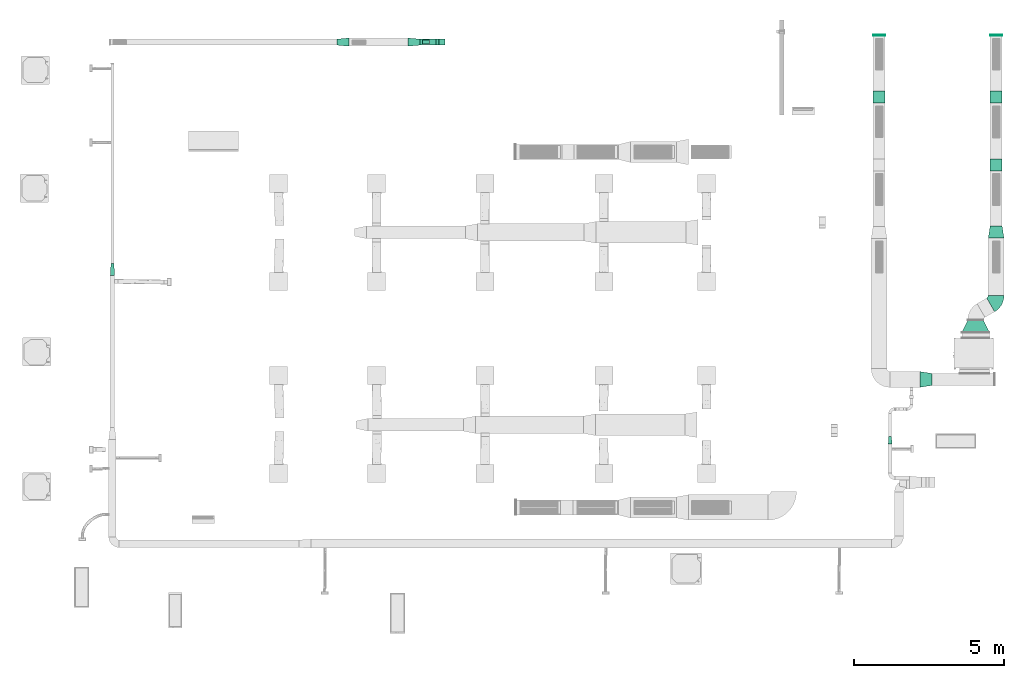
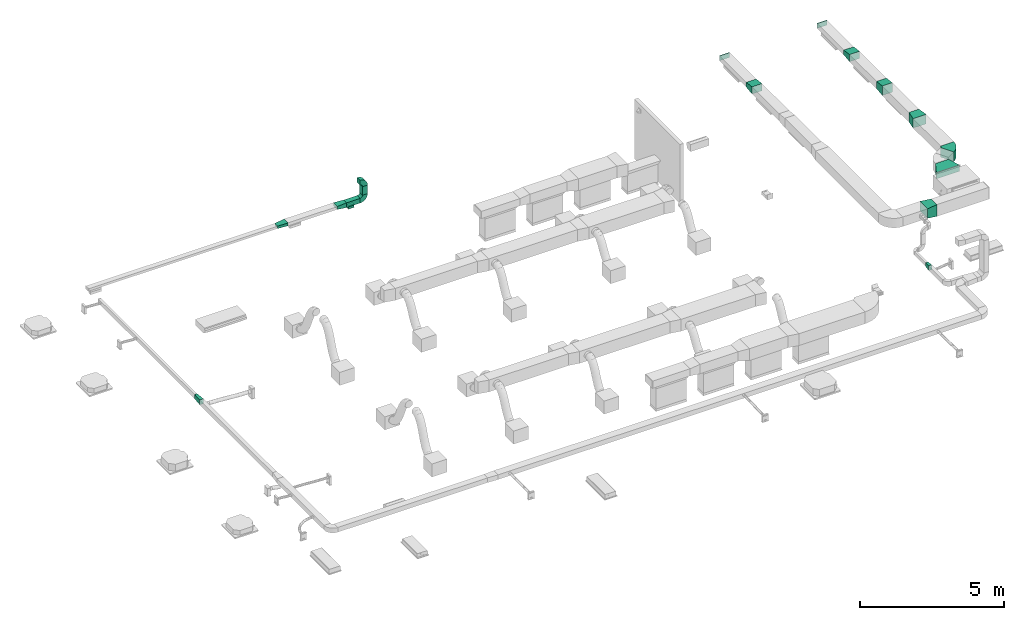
# One storey, part 34 of 60: 16 flow fittings, 3 flow segments.
"""IFC2X3 building model written with IfcOpenShell, lengths in millimetres."""

from ifc_helpers import new_model, entity, si_unit, converted_unit, derived_unit, direction, frame, frame_2d, origin, origin_2d_with_axis, place, context, subcontext, project, spatial, polyline, circle_curve, parameter, trimmed, segment, composite_curve, rectangle, outline, extrude, faceted_brep, source, transform, mapped, material, type_object, type_shapes, element, save


model = new_model("IFC2X3")

# Units and contexts
model_context = context("Model", 3, precision=0.01, world=origin(), true_north=direction((6.123233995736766e-17, 1.0)))
body_context = subcontext(model_context, "Body", "Model", "MODEL_VIEW")
ifc_project = project(units=[si_unit("LENGTHUNIT", "METRE", prefix="MILLI"), converted_unit("PLANEANGLEUNIT", "DEGREE", entity("IfcPlaneAngleMeasure", 0.017453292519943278), si_unit("PLANEANGLEUNIT", "RADIAN"), dimensions=[0, 0, 0, 0, 0, 0, 0]), si_unit("AREAUNIT", "SQUARE_METRE"), derived_unit("THERMALTRANSMITTANCEUNIT", [(si_unit("MASSUNIT", "GRAM", prefix="KILO"), 1), (si_unit("THERMODYNAMICTEMPERATUREUNIT", "KELVIN"), -1), (si_unit("TIMEUNIT", "SECOND"), -3)])], contexts=[model_context])

# Site, building, storey
site_placement = place(None, origin())
site = spatial("IfcSite", under=ifc_project, at=site_placement, Name="Default", CompositionType="ELEMENT")
building_placement = place(site_placement, origin())
building = spatial("IfcBuilding", under=site, at=building_placement, Name="Praça Pedro II, 1301 - Centro (Sul), Teresina - PI, 64001-100", CompositionType="ELEMENT")
storey_placement = place(building_placement, frame((0.0, 0.0, 6040.0)))
storey = spatial("IfcBuildingStorey", under=building, at=storey_placement, Name="2PAV", CompositionType="ELEMENT", Elevation=6040.0)

# Flow segments
duct_segment_type = type_object("IfcDuctSegmentType", Name="Duto retangular:Raios cotovelos / torneiras", PredefinedType="NOTDEFINED")
flow_segment_1_placement = place(storey_placement, origin())
element("IfcFlowSegment", 1, at=flow_segment_1_placement, inside=storey, type_object=duct_segment_type, Name="Duto retangular:Raios cotovelos / torneiras", ObjectType="Duto retangular:Raios cotovelos / torneiras", context=body_context, shape_type="SweptSolid", body=[
    extrude(rectangle(XDim=534.3630786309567, YDim=199.99999999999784, at=frame_2d((2.1884716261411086e-12, 4.334310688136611e-12), x_axis=(1.0, 0.0))), frame((20650.194144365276, -51911.56108325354, 2622.500000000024)), (0.0, 0.0, 1.0), 200.0),
])
flow_segment_2_placement = place(storey_placement, origin())
element("IfcFlowSegment", 2, at=flow_segment_2_placement, inside=storey, type_object=duct_segment_type, Name="Duto retangular:Raios cotovelos / torneiras", ObjectType="Duto retangular:Raios cotovelos / torneiras", context=body_context, shape_type="SweptSolid", body=[
    extrude(rectangle(XDim=125.00000000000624, YDim=225.00000000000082, at=origin_2d_with_axis()), frame((20590.331799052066, -51911.56108325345, 2500.0), z_axis=(0.0, 0.0, 1.0), x_axis=(0.0, 1.0, 0.0)), (0.0, 0.0, 1.0), 121.50000000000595),
])
flow_segment_3_placement = place(storey_placement, origin())
element("IfcFlowSegment", 3, at=flow_segment_3_placement, inside=storey, type_object=duct_segment_type, Name="Duto retangular:Raios cotovelos / torneiras", ObjectType="Duto retangular:Raios cotovelos / torneiras", context=body_context, shape_type="SweptSolid", body=[
    extrude(rectangle(XDim=199.99999999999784, YDim=200.0000000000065, at=origin_2d_with_axis()), frame((21117.375683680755, -51911.5610832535, 2922.4999999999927), z_axis=(0.0, 0.0, 1.0), x_axis=(-1.0, 0.0, 0.0)), (0.0, 0.0, 1.0), 357.5000000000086),
])

# Flow fittings
ifc_material = material(Name="<Unnamed>")
duct_fitting_type_1 = type_object("IfcDuctFittingType", Name="M_Rectangular Transition - L:400 mm (L)", PredefinedType="NOTDEFINED", material=ifc_material)
shared_shape_1 = source(origin(), body_context, "Body", "SweptSolid", [
    extrude(outline(polyline([(-186.052101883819, -124.03473458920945), (217.06078553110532, -124.03473458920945), (179.85036515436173, 173.64862842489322), (-210.85904880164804, 74.42084075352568), (-186.052101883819, -124.03473458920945)])), frame((200.0, -200.0, 0.0), z_axis=(0.0, 1.0, 0.0), x_axis=(0.9922778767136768, 0.0, 0.12403473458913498)), (0.0, 0.0, 1.0), 400.0),
])
type_shapes(duct_fitting_type_1, [shared_shape_1])
for number, where, z_axis, x_axis in (
    (4, (39577.445022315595, -53533.5586517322, 3450.0), (0.0, 0.0, 1.0), (0.0, -1.0, 0.0)),
    (5, (35678.621071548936, -53533.55865173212, 3450.0), (0.0, 0.0, 1.0), (0.0, -1.0, 0.0)),
):
    element("IfcFlowFitting", number, at=place(storey_placement, frame(where, z_axis=z_axis, x_axis=x_axis)), inside=storey, type_object=duct_fitting_type_1, material=ifc_material, Name="M_Rectangular Transition - L:400 mm (L)", ObjectType="M_Rectangular Transition - L:400 mm (L)", context=body_context, shape_type="MappedRepresentation", body=[
        mapped(shared_shape_1, transform((0.0, 0.0, 0.0), scale=1.0)),
    ])
duct_fitting_type_2 = type_object("IfcDuctFittingType", Name="M_Rectangular Transition - L:400 mm (L)", PredefinedType="NOTDEFINED", material=ifc_material)
shared_shape_2 = source(origin(), body_context, "Body", "SweptSolid", [
    extrude(outline(polyline([(-179.85036515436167, -173.64862842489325), (223.26252226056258, -173.64862842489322), (173.64862842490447, 223.26252226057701), (-217.06078553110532, 124.03473458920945), (-179.85036515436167, -173.64862842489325)])), frame((200.0, -200.0, 0.0), z_axis=(0.0, 1.0, 0.0), x_axis=(0.9922778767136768, 0.0, 0.12403473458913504)), (0.0, 0.0, 1.0), 400.0),
])
type_shapes(duct_fitting_type_2, [shared_shape_2])
flow_fitting_1_placement = place(storey_placement, frame((39577.445022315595, -55802.36010789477, 3450.0), z_axis=(0.0, 0.0, 1.0), x_axis=(0.0, -1.0, 0.0)))
element("IfcFlowFitting", 6, at=flow_fitting_1_placement, inside=storey, type_object=duct_fitting_type_2, material=ifc_material, Name="M_Rectangular Transition - L:400 mm (L)", ObjectType="M_Rectangular Transition - L:400 mm (L)", context=body_context, shape_type="MappedRepresentation", body=[
    mapped(shared_shape_2, transform((0.0, 0.0, 0.0), scale=1.0)),
])
duct_fitting_type_3 = type_object("IfcDuctFittingType", Name="M_Rectangular Transition - L:400 mm (L)", PredefinedType="NOTDEFINED", material=ifc_material)
shared_shape_3 = source(origin(), body_context, "Body", "SweptSolid", [
    extrude(outline(polyline([(-166.72703069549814, -228.4777828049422), (238.12633782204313, -228.47778280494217), (157.07847567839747, 290.228534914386), (-228.4777828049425, 166.72703069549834), (-166.72703069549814, -228.4777828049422)])), frame((200.0, 0.0, -200.0), z_axis=(0.0, 0.0, 1.0), x_axis=(0.9880120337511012, -0.15437688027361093, 0.0)), (0.0, 0.0, 1.0), 400.0),
])
type_shapes(duct_fitting_type_3, [shared_shape_3])
flow_fitting_2_placement = place(storey_placement, frame((39577.44502231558, -58044.46873719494, 3450.0), z_axis=(0.0, 0.0, 1.0), x_axis=(0.0, -1.0, 0.0)))
element("IfcFlowFitting", 7, at=flow_fitting_2_placement, inside=storey, type_object=duct_fitting_type_3, material=ifc_material, Name="M_Rectangular Transition - L:400 mm (L)", ObjectType="M_Rectangular Transition - L:400 mm (L)", context=body_context, shape_type="MappedRepresentation", body=[
    mapped(shared_shape_3, transform((0.0, 0.0, 0.0), scale=1.0)),
])
duct_fitting_type_4 = type_object("IfcDuctFittingType", Name="BTS vanes:1 Splitter Vanes", PredefinedType="NOTDEFINED", material=ifc_material)
shared_shape_4 = source(origin(), body_context, "Body", "SweptSolid", [
    extrude(outline(composite_curve([segment(polyline([(-353.12499999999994, -156.9671044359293), (171.87500000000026, -156.96710443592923)]), True, "CONTINUOUS"), segment(trimmed(circle_curve(frame_2d((271.8750000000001, -156.96710443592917), x_axis=(-0.5, 0.8660254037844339)), 99.99999999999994), [parameter(0.0)], [parameter(59.99999999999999)], True, "PARAMETER"), False, "CONTINUOUS"), segment(polyline([(221.87500000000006, -70.36456405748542), (-40.625000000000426, 384.29877292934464)]), True, "CONTINUOUS"), segment(trimmed(circle_curve(frame_2d((271.8750000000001, -156.96710443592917), x_axis=(-0.5, 0.8660254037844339)), 625.0), [parameter(0.0)], [parameter(59.99999999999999)], True, "PARAMETER"), True, "CONTINUOUS")], self_intersect=False)), frame((-52.32236814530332, 90.62499999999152, -200.0), z_axis=(0.0, 0.0, 1.0), x_axis=(-0.8660254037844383, 0.5000000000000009, 0.0)), (0.0, 0.0, 1.0), 400.0),
    extrude(outline(composite_curve([segment(polyline([(-48.026315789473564, -51.27781996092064), (-11.184210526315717, -51.27781996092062)]), True, "CONTINUOUS"), segment(trimmed(circle_curve(frame_2d((88.8157894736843, -51.27781996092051), x_axis=(-0.5, 0.8660254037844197)), 100.0), [parameter(0.0)], [parameter(59.99999999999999)], True, "PARAMETER"), False, "CONTINUOUS"), segment(polyline([(38.815789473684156, 35.324720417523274), (20.394736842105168, 67.23091950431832)]), True, "CONTINUOUS"), segment(trimmed(circle_curve(frame_2d((88.8157894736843, -51.27781996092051), x_axis=(-0.5, 0.8660254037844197)), 136.84210526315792), [parameter(0.0)], [parameter(59.99999999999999)], True, "PARAMETER"), True, "CONTINUOUS")], self_intersect=False)), frame((-158.0116526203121, 273.6842105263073, -200.0), z_axis=(0.0, 0.0, 1.0), x_axis=(-0.8660254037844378, 0.5000000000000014, 0.0)), (0.0, 0.0, 1.0), 400.0),
])
type_shapes(duct_fitting_type_4, [shared_shape_4])
flow_fitting_3_placement = place(storey_placement, frame((39577.44502231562, -60561.393692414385, 3450.0), z_axis=(0.0, 0.0, 1.0), x_axis=(0.8660254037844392, 0.49999999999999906, 0.0)))
element("IfcFlowFitting", 8, at=flow_fitting_3_placement, inside=storey, type_object=duct_fitting_type_4, material=ifc_material, Name="BTS vanes:1 Splitter Vanes", ObjectType="BTS vanes:1 Splitter Vanes", context=body_context, shape_type="MappedRepresentation", body=[
    mapped(shared_shape_4, transform((0.0, 0.0, 0.0), scale=1.0)),
])
duct_fitting_type_5 = type_object("IfcDuctFittingType", Name="M_Rectangular Tap - Beveled:Standard", PredefinedType="NOTDEFINED", material=ifc_material)
shared_shape_5 = source(origin(), body_context, "Body", "SweptSolid", [
    extrude(outline(polyline([(-3.038399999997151, -135.39999999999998), (4.057600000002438, -135.39999999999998), (4.057600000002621, 90.59999999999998), (-2.038399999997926, 90.59999999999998), (-3.0383999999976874, 89.60000000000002), (-3.038399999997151, -135.39999999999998)])), frame((-2.0383999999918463, -22.90000000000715, -62.499999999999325), z_axis=(0.0, 0.0, 1.0), x_axis=(-1.0, 0.0, 0.0)), (0.0, 0.0, 1.0), 124.99999999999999),
])
type_shapes(duct_fitting_type_5, [shared_shape_5])
flow_fitting_4_placement = place(storey_placement, frame((20590.33179905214, -51911.5610832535, 2622.500000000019), z_axis=(0.0, 1.0, 0.0), x_axis=(0.0, 0.0, -1.0)))
element("IfcFlowFitting", 9, at=flow_fitting_4_placement, inside=storey, type_object=duct_fitting_type_5, material=ifc_material, Name="M_Rectangular Tap - Beveled:Standard", ObjectType="M_Rectangular Tap - Beveled:Standard", context=body_context, shape_type="MappedRepresentation", body=[
    mapped(shared_shape_5, transform((0.0, 0.0, 0.0), scale=1.0)),
])
duct_fitting_type_6 = type_object("IfcDuctFittingType", Name="BTS vanes:1 Splitter Vanes", PredefinedType="NOTDEFINED", material=ifc_material)
shared_shape_6 = source(origin(), body_context, "Body", "SweptSolid", [
    extrude(outline(composite_curve([segment(polyline([(-200.0, -100.0), (0.0, -100.0)]), True, "CONTINUOUS"), segment(trimmed(circle_curve(frame_2d((100.0, -100.0), x_axis=(0.0, 1.0)), 99.99999999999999), [parameter(0.0)], [parameter(90.00000000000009)], True, "PARAMETER"), False, "CONTINUOUS"), segment(polyline([(100.0, 0.0), (100.0, 200.0)]), True, "CONTINUOUS"), segment(trimmed(circle_curve(frame_2d((100.0, -100.0), x_axis=(0.0, 1.0)), 300.0), [parameter(0.0)], [parameter(90.00000000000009)], True, "PARAMETER"), True, "CONTINUOUS")], self_intersect=False)), frame((-100.0, 100.0, -100.0), z_axis=(0.0, 0.0, 1.0), x_axis=(-1.0, 0.0, 0.0)), (0.0, 0.0, 1.0), 200.0),
    extrude(outline(composite_curve([segment(polyline([(-77.63157894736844, -59.21052631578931), (-40.789473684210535, -59.21052631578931)]), True, "CONTINUOUS"), segment(trimmed(circle_curve(frame_2d((59.21052631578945, -59.21052631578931), x_axis=(0.0, 1.0)), 99.99999999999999), [parameter(0.0)], [parameter(90.00000000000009)], True, "PARAMETER"), False, "CONTINUOUS"), segment(polyline([(59.21052631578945, 40.78947368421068), (59.21052631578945, 77.63157894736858)]), True, "CONTINUOUS"), segment(trimmed(circle_curve(frame_2d((59.21052631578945, -59.21052631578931), x_axis=(0.0, 1.0)), 136.84210526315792), [parameter(0.0)], [parameter(90.00000000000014)], True, "PARAMETER"), True, "CONTINUOUS")], self_intersect=False)), frame((-140.78947368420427, 140.78947368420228, -100.0), z_axis=(0.0, 0.0, 1.0), x_axis=(-1.0, 0.0, 0.0)), (0.0, 0.0, 1.0), 200.0),
])
type_shapes(duct_fitting_type_6, [shared_shape_6])
for number, where, z_axis, x_axis, name in (
    (10, (21117.375683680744, -51911.5610832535, 2722.50000000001), (0.0, -1.0, 0.0), (1.0, 0.0, 0.0), "BTS vanes:1 Splitter Vanes"),
    (11, (21117.37568368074, -51911.56108325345, 3480.0), (0.0, -1.0, 0.0), (0.0, 0.0, 1.0), "BTS vanes:1 Splitter Vanes"),
):
    element("IfcFlowFitting", number, at=place(storey_placement, frame(where, z_axis=z_axis, x_axis=x_axis)), inside=storey, type_object=duct_fitting_type_6, material=ifc_material, Name=name, ObjectType="BTS vanes:1 Splitter Vanes", context=body_context, shape_type="MappedRepresentation", body=[
        mapped(shared_shape_6, transform((0.0, 0.0, 0.0), scale=1.0)),
    ])
duct_fitting_type_7 = type_object("IfcDuctFittingType", Name="M_Tampa retangular:Padrão", PredefinedType="NOTDEFINED", material=ifc_material)
shared_shape_7 = source(origin(), body_context, "Body", "SweptSolid", [
    extrude(rectangle(XDim=24.99999999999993, YDim=400.0, at=frame_2d((8.881784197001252e-16, 0.0), x_axis=(1.0, 0.0))), frame((12.500000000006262, 0.0, -100.0)), (0.0, 0.0, 1.0), 200.00000000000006),
])
type_shapes(duct_fitting_type_7, [shared_shape_7])
for number, where, z_axis, x_axis in (
    (12, (39577.445022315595, -51693.1808673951, 3450.0), (0.0, 0.0, 1.0), (0.0, 1.0, 0.0)),
    (13, (35678.62107154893, -51693.1808673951, 3450.0), (0.0, 0.0, 1.0), (0.0, 1.0, 0.0)),
):
    element("IfcFlowFitting", number, at=place(storey_placement, frame(where, z_axis=z_axis, x_axis=x_axis)), inside=storey, type_object=duct_fitting_type_7, material=ifc_material, Name="M_Tampa retangular:Padrão", ObjectType="M_Tampa retangular:Padrão", context=body_context, shape_type="MappedRepresentation", body=[
        mapped(shared_shape_7, transform((0.0, 0.0, 0.0), scale=1.0)),
    ])
duct_fitting_type_8 = type_object("IfcDuctFittingType", Name="M_Rectangular Transition - L:400 mm (L)", PredefinedType="NOTDEFINED", material=ifc_material)
shared_shape_8 = source(origin(), body_context, "Body", "Brep", [
    faceted_brep([(400.0, -458.5000000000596, 134.0), (400.0, -458.5000000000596, -134.0), (400.0, 458.4999999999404, -134.0), (400.0, 458.4999999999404, 134.0), (0.0, -262.50000000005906, 200.0), (0.0, 262.499999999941, 200.0), (0.0, 262.499999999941, -200.0), (0.0, -262.50000000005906, -200.0)], [[[0, 1, 2, 3]], [[4, 5, 6, 7]], [[4, 7, 1, 0]], [[7, 6, 2, 1]], [[6, 5, 3, 2]], [[5, 4, 0, 3]]]),
])
type_shapes(duct_fitting_type_8, [shared_shape_8])
flow_fitting_5_placement = place(storey_placement, frame((38893.575486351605, -61183.31729844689, 3450.0), z_axis=(0.0, 0.0, 1.0), x_axis=(0.0, -1.0, 0.0)))
element("IfcFlowFitting", 14, at=flow_fitting_5_placement, inside=storey, type_object=duct_fitting_type_8, material=ifc_material, Name="M_Rectangular Transition - L:400 mm (L)", ObjectType="M_Rectangular Transition - L:400 mm (L)", context=body_context, shape_type="MappedRepresentation", body=[
    mapped(shared_shape_8, transform((0.0, 0.0, 0.0), scale=1.0)),
])
duct_fitting_type_9 = type_object("IfcDuctFittingType", Name="M_Rectangular Transition - L:400 mm (L)", PredefinedType="NOTDEFINED", material=ifc_material)
shared_shape_9 = source(origin(), body_context, "Body", "Brep", [
    faceted_brep([(400.0, -200.0, 200.0), (400.0, -200.0, -300.0), (400.0, 200.0, -300.0), (400.0, 200.0, 200.0), (0.0, -262.50000000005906, 200.0), (0.0, 262.499999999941, 200.0), (0.0, 262.499999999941, -200.0), (0.0, -262.50000000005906, -200.0)], [[[0, 1, 2, 3]], [[4, 5, 6, 7]], [[4, 7, 1, 0]], [[7, 6, 2, 1]], [[6, 5, 3, 2]], [[5, 4, 0, 3]]]),
])
type_shapes(duct_fitting_type_9, [shared_shape_9])
flow_fitting_6_placement = place(storey_placement, frame((37033.621071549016, -63148.27549998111, 3450.0)))
element("IfcFlowFitting", 15, at=flow_fitting_6_placement, inside=storey, type_object=duct_fitting_type_9, material=ifc_material, Name="M_Rectangular Transition - L:400 mm (L)", ObjectType="M_Rectangular Transition - L:400 mm (L)", context=body_context, shape_type="MappedRepresentation", body=[
    mapped(shared_shape_9, transform((0.0, 0.0, 0.0), scale=1.0)),
])
duct_fitting_type_10 = type_object("IfcDuctFittingType", Name="M_Rectangular Transition - L:400 mm (L)", PredefinedType="NOTDEFINED", material=ifc_material)
shared_shape_10 = source(origin(), body_context, "Body", "Brep", [
    faceted_brep([(400.0, -75.0, 100.0), (400.0, -75.0, -100.0), (400.0, 75.0, -100.0), (400.0, 75.0, 100.0), (0.0, -50.0, 87.49999999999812), (0.0, 50.0, 87.49999999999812), (0.0, 50.0, -87.50000000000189), (0.0, -50.0, -87.50000000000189)], [[[0, 1, 2, 3]], [[4, 5, 6, 7]], [[4, 7, 1, 0]], [[7, 6, 2, 1]], [[6, 5, 3, 2]], [[5, 4, 0, 3]]]),
])
type_shapes(duct_fitting_type_10, [shared_shape_10])
flow_fitting_7_placement = place(storey_placement, frame((10142.51112288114, -59292.63178520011, 2650.0), z_axis=(0.0, 0.0, 1.0), x_axis=(0.0, -1.0, 0.0)))
element("IfcFlowFitting", 16, at=flow_fitting_7_placement, inside=storey, type_object=duct_fitting_type_10, material=ifc_material, Name="M_Rectangular Transition - L:400 mm (L)", ObjectType="M_Rectangular Transition - L:400 mm (L)", context=body_context, shape_type="MappedRepresentation", body=[
    mapped(shared_shape_10, transform((0.0, 0.0, 0.0), scale=1.0)),
])
duct_fitting_type_11 = type_object("IfcDuctFittingType", Name="M_Rectangular Transition - L:250 mm (L)", PredefinedType="NOTDEFINED", material=ifc_material)
shared_shape_11 = source(origin(), body_context, "Body", "Brep", [
    faceted_brep([(250.0, -62.500000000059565, 100.0), (250.0, -62.500000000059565, -100.0), (250.0, 62.49999999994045, -100.0), (250.0, 62.49999999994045, 100.0), (0.0, -50.0, 75.0), (0.0, 50.0, 75.0), (0.0, 50.0, -75.0), (0.0, -50.0, -75.0)], [[[0, 1, 2, 3]], [[4, 5, 6, 7]], [[4, 7, 1, 0]], [[7, 6, 2, 1]], [[6, 5, 3, 2]], [[5, 4, 0, 3]]]),
])
type_shapes(duct_fitting_type_11, [shared_shape_11])
flow_fitting_8_placement = place(storey_placement, frame((36045.36892569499, -65049.3422423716, 2650.0), z_axis=(0.0, 0.0, 1.0), x_axis=(0.0, -1.0, 0.0)))
element("IfcFlowFitting", 17, at=flow_fitting_8_placement, inside=storey, type_object=duct_fitting_type_11, material=ifc_material, Name="M_Rectangular Transition - L:250 mm (L)", ObjectType="M_Rectangular Transition - L:250 mm (L)", context=body_context, shape_type="MappedRepresentation", body=[
    mapped(shared_shape_11, transform((0.0, 0.0, 0.0), scale=1.0)),
])
duct_fitting_type_12 = type_object("IfcDuctFittingType", Name="M_Rectangular Transition - L:400 mm (L)", PredefinedType="NOTDEFINED", material=ifc_material)
shared_shape_12 = source(origin(), body_context, "Body", "Brep", [
    faceted_brep([(400.0, -137.50000000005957, 75.0), (400.0, -137.50000000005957, -50.0), (400.0, 137.49999999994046, -50.0), (400.0, 137.49999999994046, 75.0), (0.0, -100.0, 50.0), (0.0, 100.0, 50.0), (0.0, 100.0, -50.0), (0.0, -100.0, -50.0)], [[[0, 1, 2, 3]], [[4, 5, 6, 7]], [[4, 7, 1, 0]], [[7, 6, 2, 1]], [[6, 5, 3, 2]], [[5, 4, 0, 3]]]),
])
type_shapes(duct_fitting_type_12, [shared_shape_12])
flow_fitting_9_placement = place(storey_placement, frame((17621.881426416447, -51911.561083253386, 2747.500000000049)))
element("IfcFlowFitting", 18, at=flow_fitting_9_placement, inside=storey, type_object=duct_fitting_type_12, material=ifc_material, Name="M_Rectangular Transition - L:400 mm (L)", ObjectType="M_Rectangular Transition - L:400 mm (L)", context=body_context, shape_type="MappedRepresentation", body=[
    mapped(shared_shape_12, transform((0.0, 0.0, 0.0), scale=1.0)),
])
duct_fitting_type_13 = type_object("IfcDuctFittingType", Name="M_Rectangular Transition - L:400 mm (L)", PredefinedType="NOTDEFINED", material=ifc_material)
shared_shape_13 = source(origin(), body_context, "Body", "Brep", [
    faceted_brep([(400.0, -100.0, 62.4999999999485), (400.0, -100.0, -137.50000000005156), (400.0, 100.0, -137.50000000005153), (400.0, 100.0, 62.499999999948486), (0.0, -137.500000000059, 62.49999999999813), (0.0, 137.499999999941, 62.49999999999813), (0.0, 137.499999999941, -62.500000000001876), (0.0, -137.500000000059, -62.500000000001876)], [[[0, 1, 2, 3]], [[4, 5, 6, 7]], [[4, 7, 1, 0]], [[7, 6, 2, 1]], [[6, 5, 3, 2]], [[5, 4, 0, 3]]]),
])
type_shapes(duct_fitting_type_13, [shared_shape_13])
flow_fitting_10_placement = place(storey_placement, frame((19983.012605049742, -51911.561083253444, 2760.0)))
element("IfcFlowFitting", 19, at=flow_fitting_10_placement, inside=storey, type_object=duct_fitting_type_13, material=ifc_material, Name="M_Rectangular Transition - L:400 mm (L)", ObjectType="M_Rectangular Transition - L:400 mm (L)", context=body_context, shape_type="MappedRepresentation", body=[
    mapped(shared_shape_13, transform((0.0, 0.0, 0.0), scale=1.0)),
])

save(model, "model.ifc")
